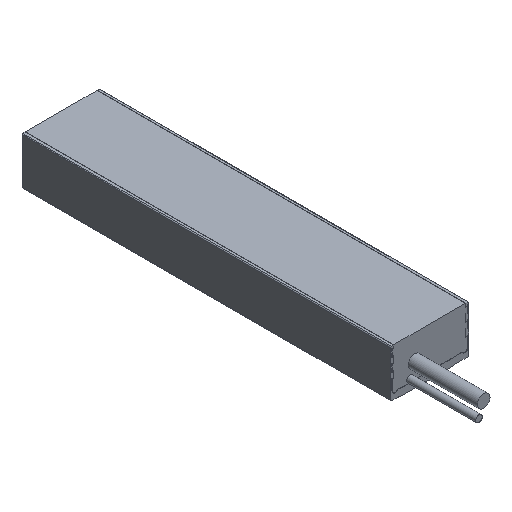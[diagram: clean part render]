
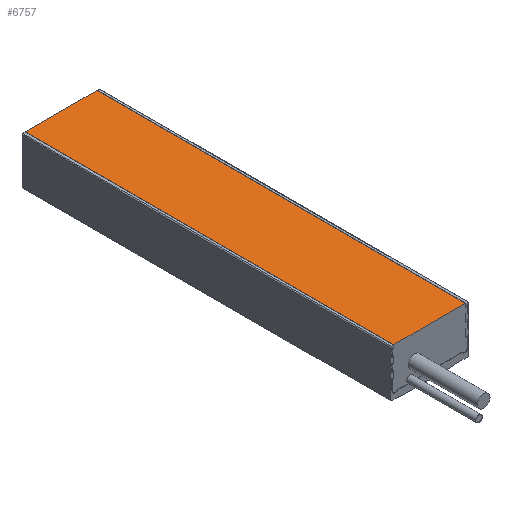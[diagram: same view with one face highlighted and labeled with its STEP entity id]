
A CAD part, isometric view. The second image highlights one B-rep face of the part: STEP entity #6757.
In plain terms, the highlighted planar face has unit normal (0, 0, 1).
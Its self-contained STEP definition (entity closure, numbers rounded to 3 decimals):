
#726=ORIENTED_EDGE('',*,*,#1847,.F.);
#727=ORIENTED_EDGE('',*,*,#1894,.T.);
#728=ORIENTED_EDGE('',*,*,#1850,.T.);
#729=ORIENTED_EDGE('',*,*,#1887,.F.);
#1847=EDGE_CURVE('',#2489,#2486,#2970,.T.);
#1850=EDGE_CURVE('',#2493,#2492,#2973,.T.);
#1887=EDGE_CURVE('',#2486,#2492,#3006,.T.);
#1894=EDGE_CURVE('',#2489,#2493,#3011,.T.);
#2486=VERTEX_POINT('',#9221);
#2489=VERTEX_POINT('',#9226);
#2492=VERTEX_POINT('',#9233);
#2493=VERTEX_POINT('',#9235);
#2970=LINE('',#9227,#3547);
#2973=LINE('',#9234,#3550);
#3006=LINE('',#9307,#3583);
#3011=LINE('',#9321,#3588);
#3547=VECTOR('',#7809,1000.);
#3550=VECTOR('',#7814,1000.);
#3583=VECTOR('',#7857,1000.);
#3588=VECTOR('',#7870,1000.);
#4041=EDGE_LOOP('',(#726,#727,#728,#729));
#4356=FACE_BOUND('',#4041,.T.);
#4640=PLANE('',#7093);
#6757=ADVANCED_FACE('',(#4356),#4640,.T.);
#7093=AXIS2_PLACEMENT_3D('',#9400,#7918,#7919);
#7809=DIRECTION('',(0.,-1.,0.));
#7814=DIRECTION('',(0.,-1.,0.));
#7857=DIRECTION('',(-1.,0.,0.));
#7870=DIRECTION('',(-1.,0.,0.));
#7918=DIRECTION('',(0.,0.,1.));
#7919=DIRECTION('',(1.,0.,0.));
#9221=CARTESIAN_POINT('',(26.,0.1,0.12));
#9226=CARTESIAN_POINT('',(26.,240.9,0.12));
#9227=CARTESIAN_POINT('',(26.,566.1,0.12));
#9233=CARTESIAN_POINT('',(-21.,0.1,0.12));
#9234=CARTESIAN_POINT('',(-21.,566.1,0.12));
#9235=CARTESIAN_POINT('',(-21.,240.9,0.12));
#9307=CARTESIAN_POINT('',(27.2,0.1,0.12));
#9321=CARTESIAN_POINT('',(27.2,240.9,0.12));
#9400=CARTESIAN_POINT('',(27.2,240.9,0.12));
